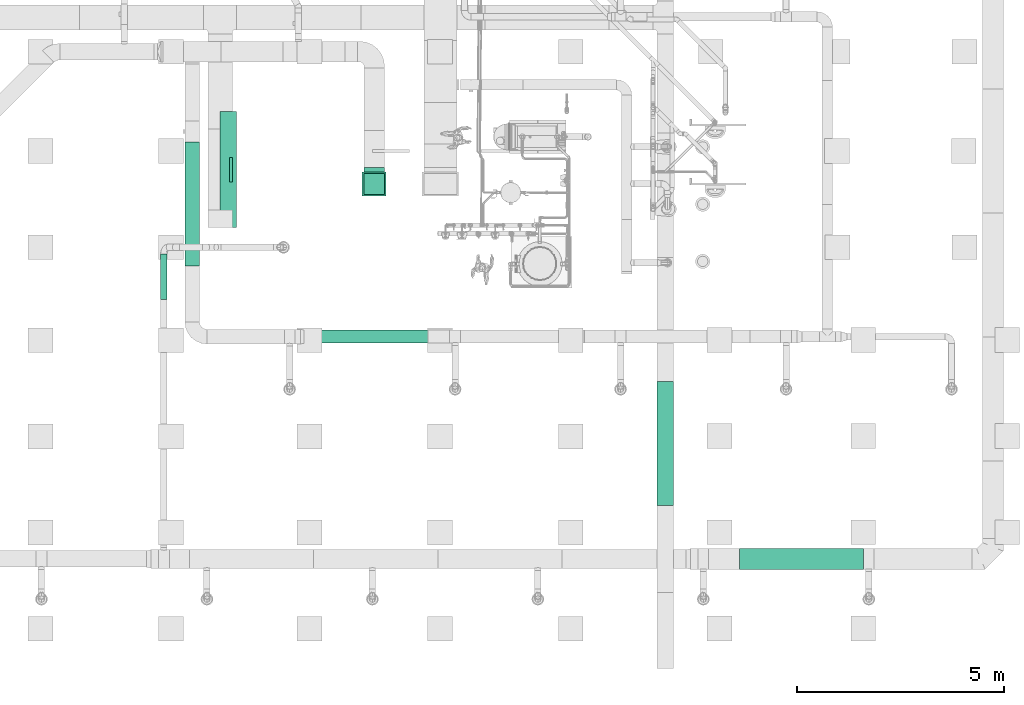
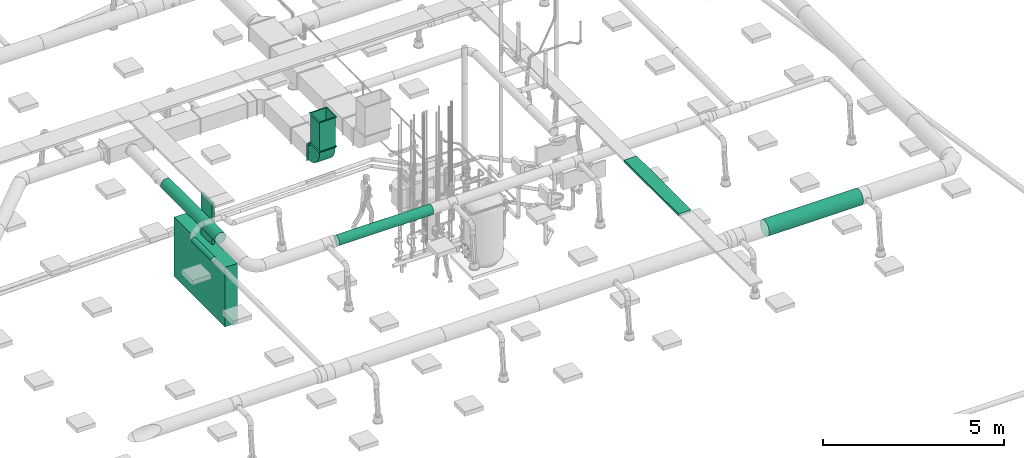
# One storey, part 5 of 374: 5 flow segments, 3 distribution elements, 1 flow fitting.
"""IFC2X3 building model written with IfcOpenShell, lengths in metres."""

from ifc_helpers import new_model, si_unit, direction, frame, frame_2d, origin, place, context, subcontext, project, spatial, rectangle, extrude, open_shell, surface_model, source, transform, mapped, element, save


model = new_model("IFC2X3")

# Units and contexts
model_context = context("Model", 3, precision=1e-05, world=origin(), true_north=direction((-0.4480736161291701, 0.8939966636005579)))
body_context = subcontext(model_context, "Body", "Model", "MODEL_VIEW")
ifc_project = project(units=[si_unit("LENGTHUNIT", "METRE"), si_unit("AREAUNIT", "SQUARE_METRE"), si_unit("VOLUMEUNIT", "CUBIC_METRE"), si_unit("PLANEANGLEUNIT", "RADIAN"), si_unit("THERMODYNAMICTEMPERATUREUNIT", "KELVIN"), si_unit("MASSUNIT", "GRAM", prefix="KILO"), si_unit("TIMEUNIT", "SECOND")], contexts=[model_context])

# Site, building, storey
site_placement = place(None, origin())
site = spatial("IfcSite", under=ifc_project, at=site_placement, Name="Site 1", CompositionType="ELEMENT")
building_placement = place(site_placement, origin())
building = spatial("IfcBuilding", under=site, at=building_placement, Name="Undefined", CompositionType="ELEMENT")
storey_placement = place(building_placement, origin())
storey = spatial("IfcBuildingStorey", under=building, at=storey_placement, Name="Rez de chauss\x8ee", CompositionType="ELEMENT", Elevation=0.0)

# Flow fitting
shared_shape_1 = source(origin(), body_context, "Body", "SurfaceModel", [
    surface_model("IfcFaceBasedSurfaceModel", [(0.0, 0.0, 0.0), (0.5800000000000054, 0.0, 0.0), (0.5400000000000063, 0.040000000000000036, 0.0), (0.04000000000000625, 0.040000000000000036, 0.0), (0.5800000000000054, 0.5800000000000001, 0.0), (0.5400000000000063, 0.54, 0.0), (0.0, 0.5800000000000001, 0.0), (0.04000000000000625, 0.54, 0.0), (0.6870000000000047, 0.0, -0.6870000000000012), (0.6870000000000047, 0.0, -0.10699999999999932), (0.6870000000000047, 0.040000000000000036, -0.14700000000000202), (0.6870000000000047, 0.040000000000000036, -0.647000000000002), (0.6870000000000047, 0.5800000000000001, -0.10699999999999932), (0.6870000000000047, 0.54, -0.14700000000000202), (0.6870000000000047, 0.5800000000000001, -0.6870000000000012), (0.6870000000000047, 0.54, -0.647000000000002), (0.04000000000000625, 0.54, -0.0470000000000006), (0.06044450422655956, 0.54, -0.20229142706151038), (0.06044450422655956, 0.040000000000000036, -0.20229142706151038), (0.04000000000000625, 0.040000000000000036, -0.0470000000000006), (0.12038475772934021, 0.54, -0.3470000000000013), (0.12038475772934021, 0.040000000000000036, -0.3470000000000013), (0.2157359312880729, 0.54, -0.4712640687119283), (0.2157359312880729, 0.040000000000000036, -0.4712640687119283), (0.3400000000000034, 0.54, -0.566615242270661), (0.3400000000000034, 0.040000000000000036, -0.566615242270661), (0.48470857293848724, 0.54, -0.6265554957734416), (0.48470857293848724, 0.040000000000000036, -0.6265554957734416), (0.6400000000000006, 0.54, -0.647000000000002), (0.6400000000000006, 0.040000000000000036, -0.647000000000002), (0.04000000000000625, 0.040000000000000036, 0.0030000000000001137), (0.04000000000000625, 0.54, 0.0030000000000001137), (0.5400000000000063, 0.040000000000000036, 0.0030000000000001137), (0.5400000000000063, 0.040000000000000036, -0.0470000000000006), (0.5400000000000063, 0.54, -0.0470000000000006), (0.5400000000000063, 0.54, 0.0030000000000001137), (0.6400000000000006, 0.54, -0.14700000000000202), (0.6141180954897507, 0.54, -0.14359258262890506), (0.6141180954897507, 0.040000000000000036, -0.14359258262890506), (0.6400000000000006, 0.040000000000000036, -0.14700000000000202), (0.5900000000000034, 0.54, -0.133602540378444), (0.5900000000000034, 0.040000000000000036, -0.133602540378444), (0.5692893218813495, 0.54, -0.11771067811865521), (0.5692893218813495, 0.040000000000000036, -0.11771067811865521), (0.5533974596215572, 0.54, -0.09700000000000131), (0.5533974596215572, 0.040000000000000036, -0.09700000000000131), (0.5434074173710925, 0.54, -0.072881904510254), (0.5434074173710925, 0.040000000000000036, -0.072881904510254), (0.6900000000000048, 0.040000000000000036, -0.14700000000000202), (0.6900000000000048, 0.54, -0.14700000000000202), (0.6900000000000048, 0.040000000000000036, -0.647000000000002), (0.6900000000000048, 0.54, -0.647000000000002)], [open_shell([[[0, 1, 2, 3]], [[1, 4, 5, 2]], [[6, 4, 5, 7]], [[0, 6, 7, 3]], [[8, 9, 10, 11]], [[9, 12, 13, 10]], [[14, 12, 13, 15]], [[8, 14, 15, 11]], [[16, 17, 18, 19]], [[17, 20, 21, 18]], [[20, 22, 23, 21]], [[22, 24, 25, 23]], [[24, 26, 27, 25]], [[26, 28, 29, 27]], [[19, 30, 31, 16]], [[32, 33, 34, 35]], [[36, 37, 38, 39]], [[37, 40, 41, 38]], [[40, 42, 43, 41]], [[42, 44, 45, 43]], [[44, 46, 47, 45]], [[46, 34, 33, 47]], [[39, 48, 49, 36]], [[50, 29, 28, 51]], [[17, 16, 46]], [[17, 46, 44]], [[17, 44, 42]], [[17, 42, 40]], [[17, 40, 37]], [[17, 37, 36]], [[17, 36, 51]], [[17, 51, 20]], [[34, 46, 16]], [[34, 16, 31]], [[34, 31, 35]], [[51, 28, 26]], [[51, 26, 24]], [[51, 24, 22]], [[51, 22, 20]], [[51, 36, 49]], [[47, 19, 18]], [[45, 47, 18]], [[43, 45, 18]], [[41, 43, 18]], [[38, 41, 18]], [[39, 38, 18]], [[50, 39, 18]], [[21, 50, 18]], [[19, 47, 33]], [[30, 19, 33]], [[32, 30, 33]], [[27, 29, 50]], [[25, 27, 50]], [[23, 25, 50]], [[21, 23, 50]], [[48, 39, 50]]])]),
])
flow_fitting_placement = place(storey_placement, origin())
element("IfcFlowFitting", 1, at=flow_fitting_placement, inside=storey, Name="Coude symétrique", ObjectType="Coude symétrique", context=body_context, shape_type="MappedRepresentation", body=[
    mapped(shared_shape_1, transform((50.04499663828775, 12.310999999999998, 3.5100000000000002), x_axis=(0.0, 0.0, 1.0), y_axis=(1.0, 0.0, 0.0), z_axis=(0.0, 1.0, 0.0))),
])

# Flow segments
shared_shape_2 = source(origin(), body_context, "Body", "SurfaceModel", [
    surface_model("IfcFaceBasedSurfaceModel", [(0.0, 0.0, 0.0), (0.5800000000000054, 0.0, 0.0), (0.5400000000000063, 0.040000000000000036, 0.0), (0.04000000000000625, 0.040000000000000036, 0.0), (0.5800000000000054, 0.5800000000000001, 0.0), (0.5400000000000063, 0.54, 0.0), (0.0, 0.5800000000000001, 0.0), (0.04000000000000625, 0.54, 0.0), (0.0, 0.0, -0.9939999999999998), (0.5800000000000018, 0.0, -0.9939999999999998), (0.5399999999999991, 0.040000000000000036, -0.9939999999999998), (0.03999999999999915, 0.040000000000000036, -0.9939999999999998), (0.5800000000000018, 0.5800000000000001, -0.9939999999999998), (0.5399999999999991, 0.54, -0.9939999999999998), (0.0, 0.5800000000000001, -0.9939999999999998), (0.03999999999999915, 0.54, -0.9939999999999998), (0.04000000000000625, 0.54, 0.0030000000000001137), (0.03999999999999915, 0.54, -0.9969999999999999), (0.03999999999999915, 0.040000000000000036, -0.9969999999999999), (0.04000000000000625, 0.040000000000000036, 0.0030000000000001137), (0.5399999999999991, 0.040000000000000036, -0.9969999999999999), (0.5400000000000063, 0.040000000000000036, 0.0030000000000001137), (0.5399999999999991, 0.54, -0.9969999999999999), (0.5400000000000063, 0.54, 0.0030000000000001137)], [open_shell([[[0, 1, 2, 3]], [[1, 4, 5, 2]], [[6, 4, 5, 7]], [[0, 6, 7, 3]], [[8, 9, 10, 11]], [[9, 12, 13, 10]], [[14, 12, 13, 15]], [[8, 14, 15, 11]], [[16, 17, 18, 19]], [[19, 18, 20, 21]], [[21, 20, 22, 23]], [[23, 22, 17, 16]]])]),
])
flow_segment_1_placement = place(storey_placement, origin())
element("IfcFlowSegment", 2, at=flow_segment_1_placement, inside=storey, Name="Gaine de ventilation", ObjectType="Gaine de ventilation", context=body_context, shape_type="MappedRepresentation", body=[
    mapped(shared_shape_2, transform((50.04499663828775, 11.623999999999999, 4.203), x_axis=(0.0, 1.0, 0.0), y_axis=(1.0, 0.0, 0.0), z_axis=(0.0, 0.0, -1.0))),
])
shared_shape_3 = source(origin(), body_context, "Body", "SurfaceModel", [
    surface_model("IfcFaceBasedSurfaceModel", [(0.0, 0.0652630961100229, -3.552713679e-15), (0.0, 0.0, 0.0), (3.0, 0.0, 0.0), (3.0, 0.0652630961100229, -4.4408921e-16), (0.0, -0.06303931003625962, -0.01689133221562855), (3.0, -0.06303931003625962, -0.016891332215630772), (0.0, -0.11955880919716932, -0.049522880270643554), (3.0, -0.11955880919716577, -0.049522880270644), (0.0, -0.1657067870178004, -0.09567085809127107), (3.0, -0.16570678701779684, -0.09567085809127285), (0.0, -0.1983383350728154, -0.15219035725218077), (3.0, -0.1983383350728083, -0.15219035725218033), (0.0, -0.2152296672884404, -0.2152296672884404), (3.0, -0.21522966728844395, -0.21522966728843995), (0.0, -0.2152296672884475, -0.28049276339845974), (3.0, -0.2152296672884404, -0.2804927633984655), (0.0, -0.1983383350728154, -0.3435320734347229), (3.0, -0.1983383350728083, -0.34353207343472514), (0.0, -0.1657067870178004, -0.4000515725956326), (3.0, -0.1657067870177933, -0.40005157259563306), (0.0, -0.11955880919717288, -0.44619955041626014), (3.0, -0.11955880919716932, -0.44619955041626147), (0.0, -0.06303931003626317, -0.47883109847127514), (3.0, -0.06303931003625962, -0.4788310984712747), (0.0, -7.105427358e-15, -0.49572243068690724), (3.0, -3.552713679e-15, -0.49572243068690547), (0.0, 0.0652630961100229, -0.4957224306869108), (3.0, 0.0652630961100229, -0.49572243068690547), (0.0, 0.12830240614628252, -0.47883109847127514), (3.0, 0.12830240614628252, -0.47883109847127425), (0.0, 0.18482190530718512, -0.4461995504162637), (3.0, 0.18482190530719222, -0.44619955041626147), (0.0, 0.2309698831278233, -0.4000515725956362), (3.0, 0.2309698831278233, -0.40005157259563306), (0.0, 0.26360143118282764, -0.34353207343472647), (3.0, 0.2636014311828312, -0.3435320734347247), (0.0, 0.2804927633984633, -0.2804927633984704), (3.0, 0.2804927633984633, -0.2804927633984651), (0.0, 0.28049276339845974, -0.2152296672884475), (3.0, 0.2804927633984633, -0.2152296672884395), (0.0, 0.2636014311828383, -0.15219035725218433), (3.0, 0.26360143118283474, -0.15219035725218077), (0.0, 0.2309698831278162, -0.09567085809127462), (3.0, 0.23096988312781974, -0.0956708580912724), (0.0, 0.18482190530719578, -0.049522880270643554), (3.0, 0.18482190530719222, -0.049522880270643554), (0.0, 0.12830240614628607, -0.016891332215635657), (3.0, 0.12830240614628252, -0.016891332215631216)], [open_shell([[[0, 1, 2, 3]], [[1, 4, 5, 2]], [[4, 6, 7, 5]], [[6, 8, 9, 7]], [[8, 10, 11, 9]], [[10, 12, 13, 11]], [[12, 14, 15, 13]], [[14, 16, 17, 15]], [[16, 18, 19, 17]], [[18, 20, 21, 19]], [[20, 22, 23, 21]], [[22, 24, 25, 23]], [[24, 26, 27, 25]], [[26, 28, 29, 27]], [[28, 30, 31, 29]], [[30, 32, 33, 31]], [[32, 34, 35, 33]], [[34, 36, 37, 35]], [[36, 38, 39, 37]], [[38, 40, 41, 39]], [[40, 42, 43, 41]], [[42, 44, 45, 43]], [[44, 46, 47, 45]], [[46, 0, 3, 47]]])]),
])
flow_segment_2_placement = place(storey_placement, origin())
element("IfcFlowSegment", 3, at=flow_segment_2_placement, inside=storey, Name="Tube", ObjectType="Tube", context=body_context, shape_type="MappedRepresentation", body=[
    mapped(shared_shape_3, transform((62.16000156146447, 2.916002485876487, 4.041481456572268), x_axis=(-1.0, 0.0, 0.0), y_axis=(7.266545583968e-12, -0.9914448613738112, 0.13052619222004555), z_axis=(0.0, 0.13052619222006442, 0.9914448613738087))),
])
shared_shape_4 = source(origin(), body_context, "Body", "SurfaceModel", [
    surface_model("IfcFaceBasedSurfaceModel", [(0.0, 0.046336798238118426, 0.0), (0.0, 0.0, 0.0), (3.0, 0.0, 0.0), (3.0, 0.046336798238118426, 0.0), (0.0, -0.044757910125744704, -0.0119928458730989), (3.0, -0.044757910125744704, -0.0119928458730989), (0.0, -0.08488675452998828, -0.035161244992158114), (3.0, -0.08488675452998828, -0.035161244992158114), (0.0, -0.11765181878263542, -0.06792630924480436), (3.0, -0.11765181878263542, -0.06792630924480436), (0.0, -0.1408202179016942, -0.10805515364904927), (3.0, -0.1408202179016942, -0.10805515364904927), (0.0, -0.15281306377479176, -0.15281306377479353), (3.0, -0.15281306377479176, -0.15281306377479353), (0.0, -0.1528130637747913, -0.19914986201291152), (3.0, -0.1528130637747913, -0.19914986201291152), (0.0, -0.14082021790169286, -0.24390777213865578), (3.0, -0.14082021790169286, -0.24390777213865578), (0.0, -0.11765181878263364, -0.2840366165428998), (3.0, -0.11765181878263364, -0.2840366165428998), (0.0, -0.0848867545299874, -0.31680168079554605), (3.0, -0.0848867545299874, -0.31680168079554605), (0.0, -0.044757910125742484, -0.3399700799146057), (3.0, -0.044757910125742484, -0.3399700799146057), (0.0, 1.776356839e-15, -0.35196292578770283), (3.0, 1.776356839e-15, -0.35196292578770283), (0.0, 0.0463367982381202, -0.3519629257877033), (3.0, 0.0463367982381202, -0.3519629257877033), (0.0, 0.09109470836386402, -0.3399700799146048), (3.0, 0.09109470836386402, -0.3399700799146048), (0.0, 0.13122355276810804, -0.31680168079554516), (3.0, 0.13122355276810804, -0.31680168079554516), (0.0, 0.16398861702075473, -0.2840366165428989), (3.0, 0.16398861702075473, -0.2840366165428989), (0.0, 0.18715701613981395, -0.243907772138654), (3.0, 0.18715701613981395, -0.243907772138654), (0.0, 0.19914986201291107, -0.19914986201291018), (3.0, 0.19914986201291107, -0.19914986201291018), (0.0, 0.19914986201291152, -0.15281306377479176), (3.0, 0.19914986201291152, -0.15281306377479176), (0.0, 0.18715701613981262, -0.1080551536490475), (3.0, 0.18715701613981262, -0.1080551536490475), (0.0, 0.1639886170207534, -0.06792630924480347), (3.0, 0.1639886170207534, -0.06792630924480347), (0.0, 0.1312235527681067, -0.03516124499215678), (3.0, 0.1312235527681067, -0.03516124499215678), (0.0, 0.09109470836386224, -0.011992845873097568), (3.0, 0.09109470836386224, -0.011992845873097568)], [open_shell([[[0, 1, 2, 3]], [[1, 4, 5, 2]], [[4, 6, 7, 5]], [[6, 8, 9, 7]], [[8, 10, 11, 9]], [[10, 12, 13, 11]], [[12, 14, 15, 13]], [[14, 16, 17, 15]], [[16, 18, 19, 17]], [[18, 20, 21, 19]], [[20, 22, 23, 21]], [[22, 24, 25, 23]], [[24, 26, 27, 25]], [[26, 28, 29, 27]], [[28, 30, 31, 29]], [[30, 32, 33, 31]], [[32, 34, 35, 33]], [[34, 36, 37, 35]], [[36, 38, 39, 37]], [[38, 40, 41, 39]], [[40, 42, 43, 41]], [[42, 44, 45, 43]], [[44, 46, 47, 45]], [[46, 0, 3, 47]]])]),
])
flow_segment_3_placement = place(storey_placement, origin())
element("IfcFlowSegment", 4, at=flow_segment_3_placement, inside=storey, Name="Tube", ObjectType="Tube", context=body_context, shape_type="MappedRepresentation", body=[
    mapped(shared_shape_4, transform((45.89027681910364, 12.935183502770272, 3.9714518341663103), x_axis=(0.0, -1.0, 0.0), y_axis=(0.9914448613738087, 0.0, 0.13052619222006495), z_axis=(-0.13052619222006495, 0.0, 0.9914448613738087))),
])
shared_shape_5 = source(origin(), body_context, "Body", "SurfaceModel", [
    surface_model("IfcFaceBasedSurfaceModel", [(0.0, 0.04111575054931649, 0.0), (0.0, 0.0, 0.0), (3.0, 0.0, 0.0), (3.0, 0.04111575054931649, 0.0), (0.0, -0.03971476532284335, -0.010641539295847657), (3.0, -0.03971476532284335, -0.010641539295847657), (0.0, -0.0753220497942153, -0.0311994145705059), (3.0, -0.0753220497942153, -0.0311994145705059), (0.0, -0.10439527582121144, -0.060272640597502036), (3.0, -0.10439527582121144, -0.060272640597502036), (0.0, -0.12495315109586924, -0.09587992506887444), (3.0, -0.12495315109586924, -0.09587992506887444), (0.0, -0.13559469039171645, -0.13559469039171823), (3.0, -0.13559469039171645, -0.13559469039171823), (0.0, -0.135594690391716, -0.17671044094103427), (3.0, -0.135594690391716, -0.17671044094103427), (0.0, -0.1249531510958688, -0.21642520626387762), (3.0, -0.1249531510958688, -0.21642520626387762), (0.0, -0.10439527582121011, -0.2520324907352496), (3.0, -0.10439527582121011, -0.2520324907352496), (0.0, -0.07532204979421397, -0.2811057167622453), (3.0, -0.07532204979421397, -0.2811057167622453), (0.0, -0.039714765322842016, -0.3016635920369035), (3.0, -0.039714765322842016, -0.3016635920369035), (0.0, 1.776356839e-15, -0.3123051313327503), (3.0, 1.776356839e-15, -0.3123051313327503), (0.0, 0.041115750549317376, -0.31230513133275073), (3.0, 0.041115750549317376, -0.31230513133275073), (0.0, 0.08083051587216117, -0.30166359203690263), (3.0, 0.08083051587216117, -0.30166359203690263), (0.0, 0.11643780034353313, -0.28110571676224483), (3.0, 0.11643780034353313, -0.28110571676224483), (0.0, 0.14551102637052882, -0.25203249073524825), (3.0, 0.14551102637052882, -0.25203249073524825), (0.0, 0.16606890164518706, -0.2164252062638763), (3.0, 0.16606890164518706, -0.2164252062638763), (0.0, 0.17671044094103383, -0.1767104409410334), (3.0, 0.17671044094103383, -0.1767104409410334), (0.0, 0.17671044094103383, -0.1355946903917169), (3.0, 0.17671044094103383, -0.1355946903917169), (0.0, 0.16606890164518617, -0.09587992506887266), (3.0, 0.16606890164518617, -0.09587992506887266), (0.0, 0.14551102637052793, -0.06027264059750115), (3.0, 0.14551102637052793, -0.06027264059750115), (0.0, 0.1164378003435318, -0.031199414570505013), (3.0, 0.1164378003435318, -0.031199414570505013), (0.0, 0.08083051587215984, -0.010641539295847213), (3.0, 0.08083051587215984, -0.010641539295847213)], [open_shell([[[0, 1, 2, 3]], [[1, 4, 5, 2]], [[4, 6, 7, 5]], [[6, 8, 9, 7]], [[8, 10, 11, 9]], [[10, 12, 13, 11]], [[12, 14, 15, 13]], [[14, 16, 17, 15]], [[16, 18, 19, 17]], [[18, 20, 21, 19]], [[20, 22, 23, 21]], [[22, 24, 25, 23]], [[24, 26, 27, 25]], [[26, 28, 29, 27]], [[28, 30, 31, 29]], [[30, 32, 33, 31]], [[32, 34, 35, 33]], [[34, 36, 37, 35]], [[36, 38, 39, 37]], [[38, 40, 41, 39]], [[40, 42, 43, 41]], [[42, 44, 45, 43]], [[44, 46, 47, 45]], [[46, 0, 3, 47]]])]),
])
flow_segment_4_placement = place(storey_placement, origin())
element("IfcFlowSegment", 5, at=flow_segment_4_placement, inside=storey, Name="Tube", ObjectType="Tube", context=body_context, shape_type="MappedRepresentation", body=[
    mapped(shared_shape_5, transform((48.640000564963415, 8.18423579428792, 3.952133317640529), x_axis=(1.0, 0.0, 0.0), y_axis=(0.0, 0.9914448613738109, 0.1305261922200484), z_axis=(0.0, -0.1305261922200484, 0.9914448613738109))),
])
shared_shape_6 = source(origin(), body_context, "Body", "SurfaceModel", [
    surface_model("IfcFaceBasedSurfaceModel", [(0.0, 0.020884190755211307, 0.0), (0.0, 0.0, 0.0), (1.0993348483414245, 0.0, 1.776356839e-15), (1.0993348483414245, 0.0208841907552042, 1.776356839e-15), (0.0, -0.020172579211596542, -0.005405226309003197), (1.0993348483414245, -0.020172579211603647, -0.005405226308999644), (0.0, -0.03825881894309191, -0.015847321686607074), (1.0993348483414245, -0.038258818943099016, -0.015847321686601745), (0.0, -0.05302617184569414, -0.0306146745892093), (1.0993348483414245, -0.05302617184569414, -0.030614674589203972), (0.0, -0.06346826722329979, -0.04870091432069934), (1.0993348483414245, -0.06346826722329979, -0.04870091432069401), (0.0, -0.06887349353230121, -0.06887349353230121), (1.0993348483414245, -0.06887349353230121, -0.06887349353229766), (0.0, -0.06887349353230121, -0.08975768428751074), (1.0993348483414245, -0.06887349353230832, -0.08975768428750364), (0.0, -0.06346826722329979, -0.10993026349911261), (1.0993348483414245, -0.0634682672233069, -0.10993026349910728), (0.0, -0.05302617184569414, -0.12801650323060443), (1.0993348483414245, -0.05302617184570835, -0.1280165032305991), (0.0, -0.038258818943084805, -0.14278385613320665), (1.0993348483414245, -0.03825881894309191, -0.14278385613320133), (0.0, -0.020172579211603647, -0.15322595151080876), (1.0993348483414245, -0.020172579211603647, -0.1532259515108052), (0.0, 7.105427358e-15, -0.15863117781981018), (1.0993348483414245, -7.105427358e-15, -0.1586311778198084), (0.0, 0.020884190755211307, -0.15863117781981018), (1.0993348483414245, 0.0208841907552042, -0.1586311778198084), (0.0, 0.04105676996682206, -0.15322595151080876), (1.0993348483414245, 0.04105676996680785, -0.15322595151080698), (0.0, 0.05914300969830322, -0.1427838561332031), (1.0993348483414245, 0.05914300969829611, -0.1427838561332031), (0.0, 0.07391036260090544, -0.12801650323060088), (1.0993348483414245, 0.07391036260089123, -0.12801650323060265), (0.0, 0.0843524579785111, -0.10993026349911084), (1.0993348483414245, 0.08435245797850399, -0.10993026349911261), (0.0, 0.08975768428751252, -0.08975768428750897), (1.0993348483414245, 0.08975768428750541, -0.08975768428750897), (0.0, 0.08975768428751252, -0.06887349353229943), (1.0993348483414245, 0.08975768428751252, -0.06887349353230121), (0.0, 0.0843524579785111, -0.048700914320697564), (1.0993348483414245, 0.08435245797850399, -0.048700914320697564), (0.0, 0.07391036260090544, -0.030614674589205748), (1.0993348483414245, 0.07391036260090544, -0.030614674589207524), (0.0, 0.05914300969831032, -0.015847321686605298), (1.0993348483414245, 0.05914300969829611, -0.015847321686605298), (0.0, 0.04105676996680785, -0.005405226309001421), (1.0993348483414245, 0.04105676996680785, -0.005405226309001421)], [open_shell([[[0, 1, 2, 3]], [[1, 4, 5, 2]], [[4, 6, 7, 5]], [[6, 8, 9, 7]], [[8, 10, 11, 9]], [[10, 12, 13, 11]], [[12, 14, 15, 13]], [[14, 16, 17, 15]], [[16, 18, 19, 17]], [[18, 20, 21, 19]], [[20, 22, 23, 21]], [[22, 24, 25, 23]], [[24, 26, 27, 25]], [[26, 28, 29, 27]], [[28, 30, 31, 29]], [[30, 32, 33, 31]], [[32, 34, 35, 33]], [[34, 36, 37, 35]], [[36, 38, 39, 37]], [[38, 40, 41, 39]], [[40, 42, 43, 41]], [[42, 44, 45, 43]], [[44, 46, 47, 45]], [[46, 0, 3, 47]]])]),
])
flow_segment_5_placement = place(storey_placement, origin())
element("IfcFlowSegment", 6, at=flow_segment_5_placement, inside=storey, Name="Tube", ObjectType="Tube", context=body_context, shape_type="MappedRepresentation", body=[
    mapped(shared_shape_6, transform((45.229494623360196, 9.126297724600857, 3.7227259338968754), x_axis=(0.0, 1.0, 0.0), y_axis=(0.9914448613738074, 0.0, -0.13052619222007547), z_axis=(-0.13052619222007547, 0.0, -0.9914448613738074))),
])

# Distribution elements
distribution_element_1_placement = place(storey_placement, origin())
element("IfcDistributionElement", 7, at=distribution_element_1_placement, inside=storey, Name="Chemin(s) de câbles", ObjectType="Chemin(s) de câbles", context=body_context, shape_type="SweptSolid", body=[
    extrude(rectangle(XDim=0.4, YDim=0.08, at=frame_2d((3.552713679e-15, 0.0), x_axis=(-1.0, 0.0))), frame((57.36899699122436, 7.143616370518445, 4.14), z_axis=(0.0, -1.0, 0.0), x_axis=(1.0, 0.0, 0.0)), (0.0, 0.0, 1.0), 3.0),
])
distribution_element_2_placement = place(storey_placement, origin())
element("IfcDistributionElement", 8, at=distribution_element_2_placement, inside=storey, Name="HAK", ObjectType="HAK", context=body_context, shape_type="SweptSolid", body=[
    extrude(rectangle(XDim=0.3999999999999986, YDim=2.0, at=frame_2d((3.552713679e-15, 0.0), x_axis=(-1.0, 0.0))), frame((46.81100000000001, 10.8665945, 1.0), z_axis=(0.0, 1.0, 0.0), x_axis=(1.0, 0.0, 0.0)), (0.0, 0.0, 1.0), 2.8000000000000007),
])
distribution_element_3_placement = place(storey_placement, origin())
element("IfcDistributionElement", 9, at=distribution_element_3_placement, inside=storey, Name="Chemin(s) de câbles", ObjectType="Chemin(s) de câbles", context=body_context, shape_type="SweptSolid", body=[
    extrude(rectangle(XDim=0.6, YDim=0.08, at=frame_2d((3.552713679e-15, 0.0), x_axis=(-1.0, 0.0))), frame((46.871, 12.261730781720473, 3.42), z_axis=(0.0, 0.0, -1.0), x_axis=(0.0, -1.0, 0.0)), (0.0, 0.0, 1.0), 1.4000000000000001),
])

save(model, "model.ifc")
